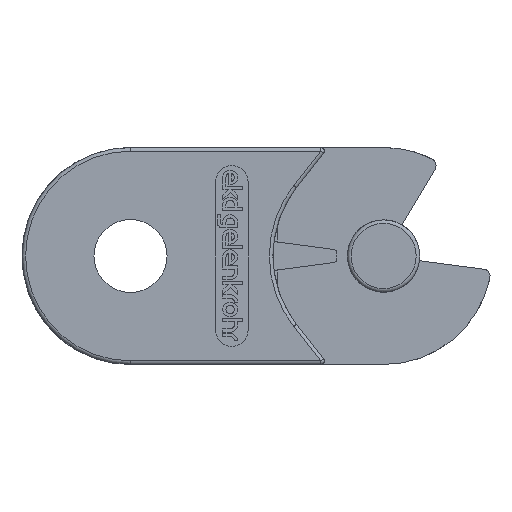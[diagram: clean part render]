
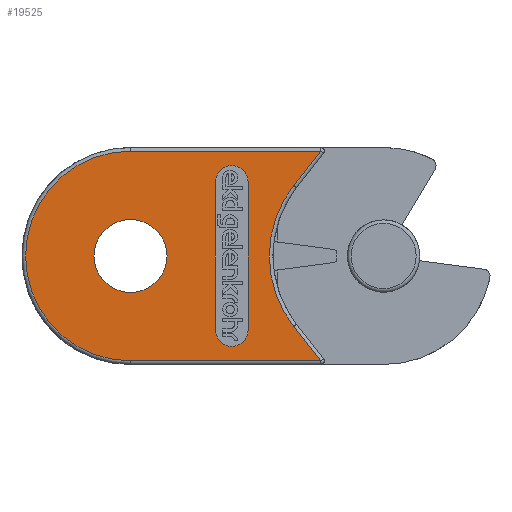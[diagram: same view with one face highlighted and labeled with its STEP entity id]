
A CAD part, left-side view. The second image highlights one B-rep face of the part: STEP entity #19525.
In plain terms, the highlighted planar face has unit normal (-1, 0, 0).
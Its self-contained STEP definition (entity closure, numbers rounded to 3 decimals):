
#11736=CARTESIAN_POINT('',(0.0,12.85,15.));
#11737=VERTEX_POINT('',#11736);
#11738=CARTESIAN_POINT('',(0.0,17.9,15.));
#11739=DIRECTION('',(1.0,0.0,0.0));
#11740=DIRECTION('',(0.0,1.0,0.0));
#11741=AXIS2_PLACEMENT_3D('',#11738,#11739,#11740);
#11742=CIRCLE('',#11741,5.05);
#11743=EDGE_CURVE('',#11737,#11737,#11742,.T.);
#12187=CARTESIAN_POINT('',(0.0,-8.393,29.5));
#12188=VERTEX_POINT('',#12187);
#12212=CARTESIAN_POINT('',(0.0,-8.393,0.5));
#12213=VERTEX_POINT('',#12212);
#12236=CARTESIAN_POINT('',(0.0,-4.668,24.751));
#12237=VERTEX_POINT('',#12236);
#12252=CARTESIAN_POINT('',(0.0,-8.393,29.5));
#12253=DIRECTION('',(0.0,0.617,-0.787));
#12254=VECTOR('',#12253,6.035);
#12255=LINE('',#12252,#12254);
#12256=EDGE_CURVE('',#12188,#12237,#12255,.T.);
#12268=CARTESIAN_POINT('',(0.0,-4.668,5.249));
#12269=VERTEX_POINT('',#12268);
#12270=CARTESIAN_POINT('',(0.0,-17.1,15.));
#12271=DIRECTION('',(-1.0,0.0,0.0));
#12272=DIRECTION('',(0.0,1.,0.));
#12273=AXIS2_PLACEMENT_3D('',#12270,#12271,#12272);
#12274=CIRCLE('',#12273,15.8);
#12275=EDGE_CURVE('',#12237,#12269,#12274,.T.);
#12300=CARTESIAN_POINT('',(0.0,-4.668,5.249));
#12301=DIRECTION('',(0.0,-0.617,-0.787));
#12302=VECTOR('',#12301,6.035);
#12303=LINE('',#12300,#12302);
#12304=EDGE_CURVE('',#12269,#12213,#12303,.T.);
#12314=CARTESIAN_POINT('',(0.0,17.9,29.5));
#12315=VERTEX_POINT('',#12314);
#12325=CARTESIAN_POINT('',(0.0,17.9,29.5));
#12326=DIRECTION('',(0.0,-1.0,0.0));
#12327=VECTOR('',#12326,26.293);
#12328=LINE('',#12325,#12327);
#12329=EDGE_CURVE('',#12315,#12188,#12328,.T.);
#12346=CARTESIAN_POINT('',(0.0,17.9,0.5));
#12347=VERTEX_POINT('',#12346);
#12348=CARTESIAN_POINT('',(0.0,17.9,15.));
#12349=DIRECTION('',(1.0,0.0,0.0));
#12350=DIRECTION('',(0.0,1.0,0.0));
#12351=AXIS2_PLACEMENT_3D('',#12348,#12349,#12350);
#12352=CIRCLE('',#12351,14.5);
#12353=EDGE_CURVE('',#12347,#12315,#12352,.T.);
#12381=CARTESIAN_POINT('',(0.0,-8.393,0.5));
#12382=DIRECTION('',(0.0,1.0,0.0));
#12383=VECTOR('',#12382,26.293);
#12384=LINE('',#12381,#12383);
#12385=EDGE_CURVE('',#12213,#12347,#12384,.T.);
#13397=CARTESIAN_POINT('',(0.0,6.147,25.25));
#13398=VERTEX_POINT('',#13397);
#13399=CARTESIAN_POINT('',(0.0,1.647,25.25));
#13400=VERTEX_POINT('',#13399);
#13401=CARTESIAN_POINT('',(0.0,3.897,25.25));
#13402=DIRECTION('',(1.0,0.0,0.0));
#13403=DIRECTION('',(0.0,0.0,-1.0));
#13404=AXIS2_PLACEMENT_3D('',#13401,#13402,#13403);
#13405=CIRCLE('',#13404,2.25);
#13406=EDGE_CURVE('',#13398,#13400,#13405,.T.);
#13450=CARTESIAN_POINT('',(0.0,6.147,4.75));
#13451=VERTEX_POINT('',#13450);
#13458=CARTESIAN_POINT('',(0.0,1.647,4.75));
#13459=VERTEX_POINT('',#13458);
#13460=CARTESIAN_POINT('',(0.0,3.897,4.75));
#13461=DIRECTION('',(1.0,0.0,0.0));
#13462=DIRECTION('',(0.0,0.0,-1.0));
#13463=AXIS2_PLACEMENT_3D('',#13460,#13461,#13462);
#13464=CIRCLE('',#13463,2.25);
#13465=EDGE_CURVE('',#13459,#13451,#13464,.T.);
#18455=CARTESIAN_POINT('',(0.0,1.647,25.25));
#18456=DIRECTION('',(0.0,0.0,-1.0));
#18457=VECTOR('',#18456,20.5);
#18458=LINE('',#18455,#18457);
#18459=EDGE_CURVE('',#13400,#13459,#18458,.T.);
#18477=CARTESIAN_POINT('',(0.0,6.147,4.75));
#18478=DIRECTION('',(0.0,0.0,1.0));
#18479=VECTOR('',#18478,20.5);
#18480=LINE('',#18477,#18479);
#18481=EDGE_CURVE('',#13451,#13398,#18480,.T.);
#19503=CARTESIAN_POINT('',(0.0,0.189,15.));
#19504=DIRECTION('',(-1.0,0.0,0.0));
#19505=DIRECTION('',(0.0,-1.0,0.0));
#19506=AXIS2_PLACEMENT_3D('',#19503,#19504,#19505);
#19507=PLANE('',#19506);
#19508=ORIENTED_EDGE('',*,*,#12385,.F.);
#19509=ORIENTED_EDGE('',*,*,#12304,.F.);
#19510=ORIENTED_EDGE('',*,*,#12275,.F.);
#19511=ORIENTED_EDGE('',*,*,#12256,.F.);
#19512=ORIENTED_EDGE('',*,*,#12329,.F.);
#19513=ORIENTED_EDGE('',*,*,#12353,.F.);
#19514=EDGE_LOOP('',(#19508,#19509,#19510,#19511,#19512,#19513));
#19515=FACE_OUTER_BOUND('',#19514,.T.);
#19516=ORIENTED_EDGE('',*,*,#13465,.T.);
#19517=ORIENTED_EDGE('',*,*,#18481,.T.);
#19518=ORIENTED_EDGE('',*,*,#13406,.T.);
#19519=ORIENTED_EDGE('',*,*,#18459,.T.);
#19520=EDGE_LOOP('',(#19516,#19517,#19518,#19519));
#19521=FACE_BOUND('',#19520,.T.);
#19522=ORIENTED_EDGE('',*,*,#11743,.T.);
#19523=EDGE_LOOP('',(#19522));
#19524=FACE_BOUND('',#19523,.T.);
#19525=ADVANCED_FACE('',(#19515,#19521,#19524),#19507,.T.);
